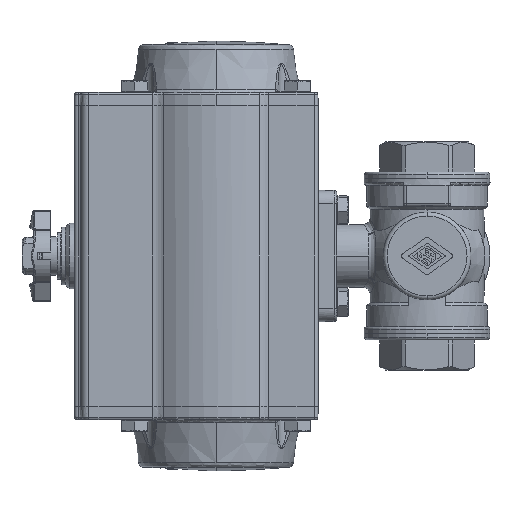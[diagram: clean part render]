
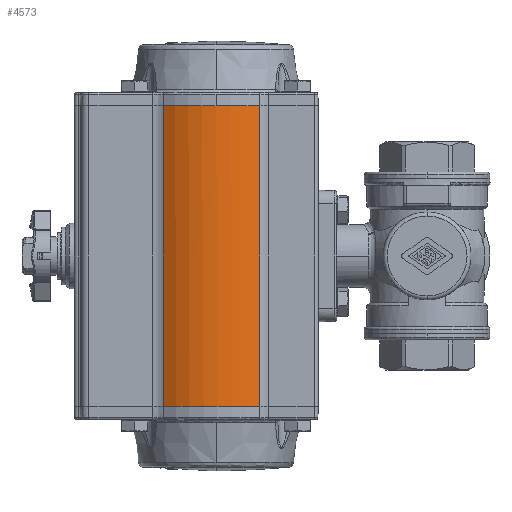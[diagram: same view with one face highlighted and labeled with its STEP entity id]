
A CAD part, left-side view. The second image highlights one B-rep face of the part: STEP entity #4573.
In plain terms, the highlighted cylindrical face has radius 35.5 mm (diameter 71 mm), a partial arc.
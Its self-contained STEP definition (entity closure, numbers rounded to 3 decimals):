
#2009 = EDGE_LOOP ( 'NONE', ( #7065, #47129, #73251, #21959, #21186 ) ) ;
#4573 = ADVANCED_FACE ( 'NONE', ( #59895 ), #98431, .T. ) ;
#7065 = ORIENTED_EDGE ( 'NONE', *, *, #55119, .F. ) ;
#8824 = VERTEX_POINT ( 'NONE', #122547 ) ;
#9730 = EDGE_CURVE ( 'NONE', #42153, #42862, #102812, .T. ) ;
#12320 = CARTESIAN_POINT ( 'NONE',  ( -29.235, 100.638, 57.4 ) ) ;
#15818 = VERTEX_POINT ( 'NONE', #76586 ) ;
#19034 = EDGE_CURVE ( 'NONE', #42862, #30686, #78848, .T. ) ;
#19608 = VECTOR ( 'NONE', #68599, 1000. ) ;
#21186 = ORIENTED_EDGE ( 'NONE', *, *, #9730, .F. ) ;
#21959 = ORIENTED_EDGE ( 'NONE', *, *, #19034, .F. ) ;
#30686 = VERTEX_POINT ( 'NONE', #99026 ) ;
#30922 = CARTESIAN_POINT ( 'NONE',  ( -31.324, 63.794, 0. ) ) ;
#36153 = DIRECTION ( 'NONE',  ( 1., 0., 0. ) ) ;
#36340 = AXIS2_PLACEMENT_3D ( 'NONE', #45841, #51891, #36153 ) ;
#42153 = VERTEX_POINT ( 'NONE', #12320 ) ;
#42862 = VERTEX_POINT ( 'NONE', #83525 ) ;
#44310 = VECTOR ( 'NONE', #62606, 1000. ) ;
#44534 = LINE ( 'NONE', #30922, #19608 ) ;
#45841 = CARTESIAN_POINT ( 'NONE',  ( 0., 80.5, 57.4 ) ) ;
#47129 = ORIENTED_EDGE ( 'NONE', *, *, #108427, .F. ) ;
#50871 = DIRECTION ( 'NONE',  ( 0., 0., -1. ) ) ;
#51891 = DIRECTION ( 'NONE',  ( 0., 0., 1. ) ) ;
#51968 = CARTESIAN_POINT ( 'NONE',  ( 0., 80.5, 57.4 ) ) ;
#52210 = DIRECTION ( 'NONE',  ( 0., 0., 1. ) ) ;
#52367 = DIRECTION ( 'NONE',  ( 1., 0., 0. ) ) ;
#55119 = EDGE_CURVE ( 'NONE', #15818, #42153, #116746, .T. ) ;
#59252 = CIRCLE ( 'NONE', #71640, 35.5 ) ;
#59895 = FACE_OUTER_BOUND ( 'NONE', #2009, .T. ) ;
#62606 = DIRECTION ( 'NONE',  ( 0., 0., 1. ) ) ;
#63220 = DIRECTION ( 'NONE',  ( 0., 0., 1. ) ) ;
#67118 = CARTESIAN_POINT ( 'NONE',  ( 0., 80.5, -57.4 ) ) ;
#68039 = DIRECTION ( 'NONE',  ( 0., -1., 0. ) ) ;
#68599 = DIRECTION ( 'NONE',  ( 0., 0., -1. ) ) ;
#71640 = AXIS2_PLACEMENT_3D ( 'NONE', #107485, #50871, #116984 ) ;
#73251 = ORIENTED_EDGE ( 'NONE', *, *, #76460, .F. ) ;
#76460 = EDGE_CURVE ( 'NONE', #30686, #8824, #44534, .T. ) ;
#76586 = CARTESIAN_POINT ( 'NONE',  ( -29.235, 100.638, -57.4 ) ) ;
#78848 = CIRCLE ( 'NONE', #36340, 35.5 ) ;
#81169 = AXIS2_PLACEMENT_3D ( 'NONE', #51968, #52210, #52367 ) ;
#83525 = CARTESIAN_POINT ( 'NONE',  ( -35.5, 80.5, 57.4 ) ) ;
#83991 = AXIS2_PLACEMENT_3D ( 'NONE', #67118, #63220, #68039 ) ;
#98431 = CYLINDRICAL_SURFACE ( 'NONE', #83991, 35.5 ) ;
#99026 = CARTESIAN_POINT ( 'NONE',  ( -31.324, 63.794, 57.4 ) ) ;
#102812 = CIRCLE ( 'NONE', #81169, 35.5 ) ;
#107485 = CARTESIAN_POINT ( 'NONE',  ( 0., 80.5, -57.4 ) ) ;
#108427 = EDGE_CURVE ( 'NONE', #8824, #15818, #59252, .T. ) ;
#109833 = CARTESIAN_POINT ( 'NONE',  ( -29.235, 100.638, 0. ) ) ;
#116746 = LINE ( 'NONE', #109833, #44310 ) ;
#116984 = DIRECTION ( 'NONE',  ( 1., 0., 0. ) ) ;
#122547 = CARTESIAN_POINT ( 'NONE',  ( -31.324, 63.794, -57.4 ) ) ;
